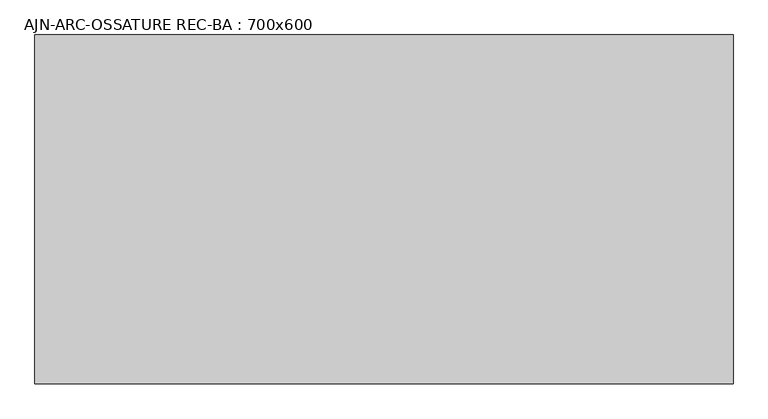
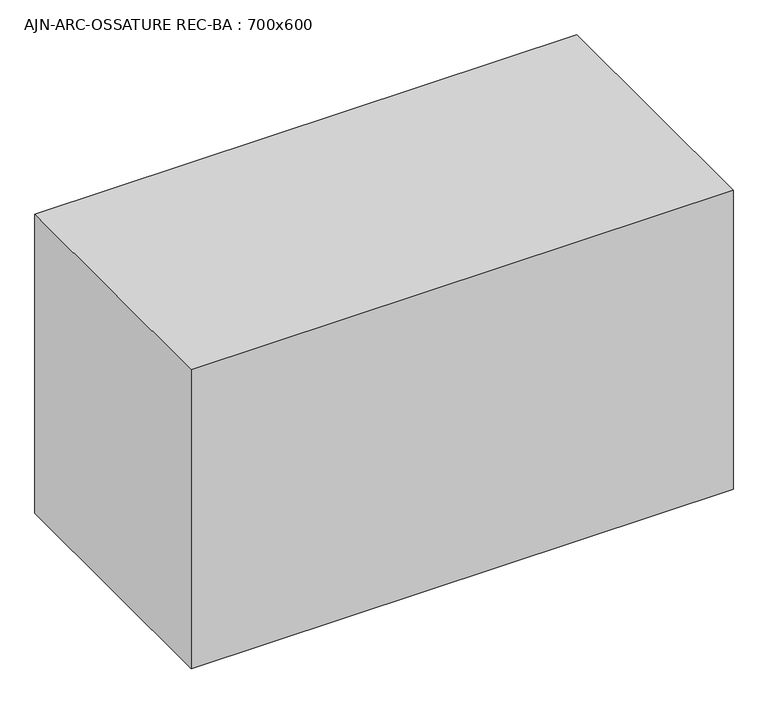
"""IFC4 building model written with IfcOpenShell, lengths in millimetres: beam geometry, AJN-ARC-OSSATURE REC-BA : 700x600."""

from ifc_helpers import new_model, si_unit, frame, origin, place, context, project, spatial, polyline, outline, extrude, source, transform, mapped, element, save


def ajn_arc_ossature_rec_ba_700x600_4d623bda(model_context):
    return source(origin(), model_context, "Body", "SweptSolid", [
        extrude(outline(polyline([(450.0, 300.0), (450.0, -300.0), (-750.0, -300.0), (-750.0, 300.0), (450.0, 300.0)])), frame((0.0, 0.0, -350.0), z_axis=(0.0, 0.0, 1.0), x_axis=(1.0, 0.0, 0.0)), (0.0, 0.0, 1.0), 700.0),
    ])


if __name__ == "__main__":
    model = new_model("IFC4")
    model_context = context("Model", 3, world=origin())
    ifc_project = project(units=[si_unit("LENGTHUNIT", "METRE", prefix="MILLI")], contexts=[model_context])
    site = spatial("IfcSite", under=ifc_project)
    building = spatial("IfcBuilding", under=site)
    placement = place(None, origin())
    ajn_arc_ossature_rec_ba_700x600_shape = ajn_arc_ossature_rec_ba_700x600_4d623bda(model_context)
    element("IfcBeam", 1, ObjectType="AJN-ARC-OSSATURE REC-BA : 700x600", at=placement, inside=building, context=model_context, shape_type="MappedRepresentation", body=[
        mapped(ajn_arc_ossature_rec_ba_700x600_shape, transform((0.0, 0.0, 0.0), x_axis=(1.0, 0.0, 0.0), y_axis=(0.0, 1.0, 0.0), z_axis=(0.0, 0.0, 1.0))),
    ])
    save(model, "model.ifc")
